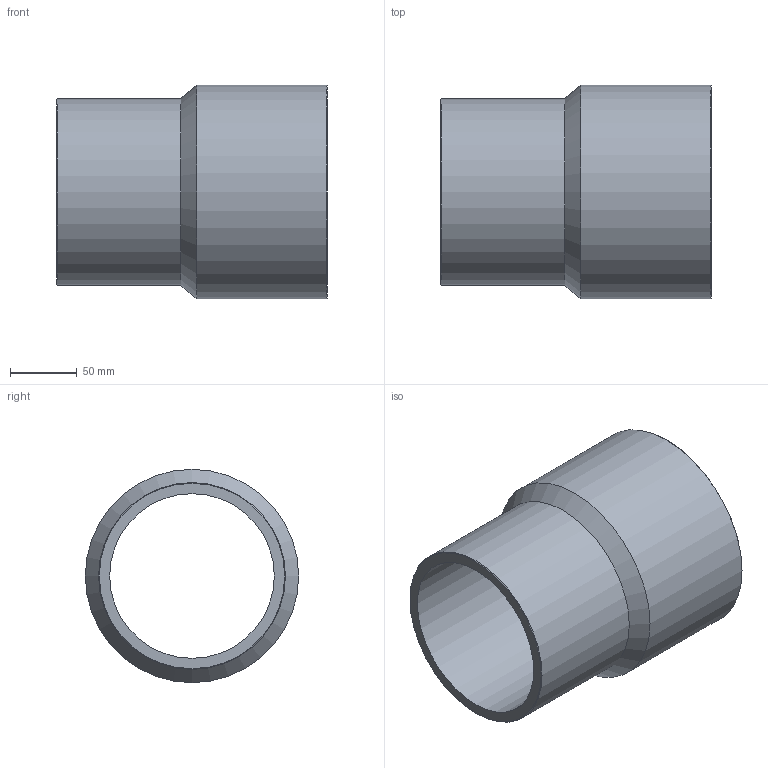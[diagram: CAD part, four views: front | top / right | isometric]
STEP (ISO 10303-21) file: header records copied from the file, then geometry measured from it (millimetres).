
FILE_DESCRIPTION(/* description */ ('Unknown'),/* implementation_level */ '2;1');
FILE_NAME(/* name */ 'RP160140B',/* time_stamp */ '2021-09-17T11:08:50+02:00',/* author */ ('Unknown'),/* organization */ ('Unknown'),/* preprocessor_version */ 'ST-DEVELOPER v16.7',/* originating_system */ 'Solid Edge',/* authorisation */ 'Unknown');
FILE_SCHEMA (('AUTOMOTIVE_DESIGN {1 0 10303 214 3 1 1}'));
Length unit declared in the file: millimetre
Products named in the file (1): RP160140B
Bounding box: 203 x 160 x 160 mm (x, y, z)
Volume: 834304.8 mm3; surface area: 190327.7 mm2
Topology: 1 solids, 1 shells, 10 faces, 19 edges, 11 vertices
Faces by surface type: cylinder 4, cone 4, plane 2
Full cylindrical faces by diameter (mm): 123.4 x1, 140 x1, 141 x1, 160 x1
Entity records: 238 total; most frequent: DIRECTION 42, CARTESIAN_POINT 31, AXIS2_PLACEMENT_3D 21, ORIENTED_EDGE 20, EDGE_LOOP 20, FACE_BOUND 20, EDGE_CURVE 10, VERTEX_POINT 10
